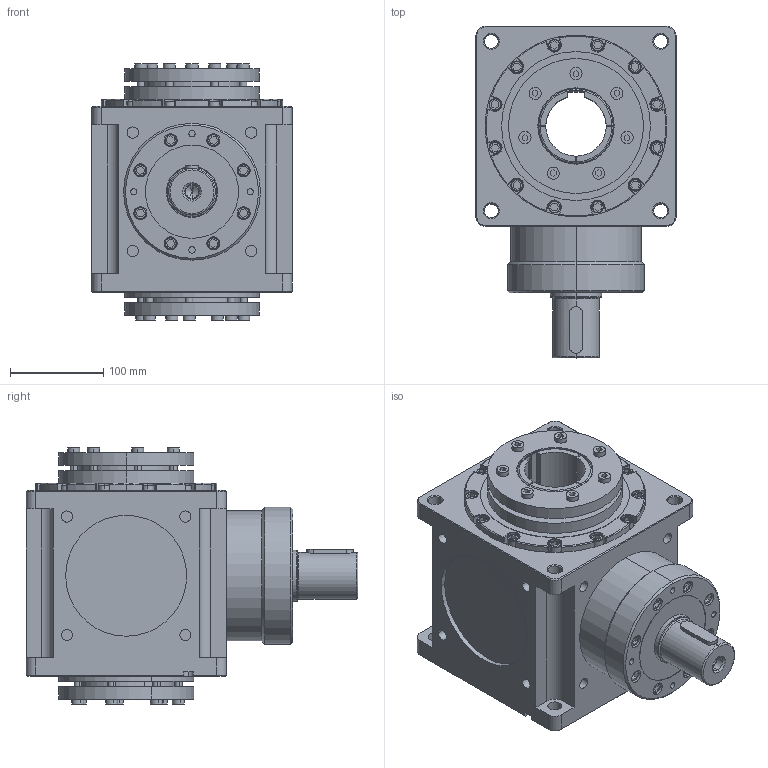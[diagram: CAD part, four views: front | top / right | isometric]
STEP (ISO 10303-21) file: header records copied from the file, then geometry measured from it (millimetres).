
FILE_DESCRIPTION (( 'STEP AP214' ), '1' );
FILE_NAME ('CCT215A-002-2HP-K.STEP', '2025-05-28T05:28:29', ( '微软用户' ), ( '微软中国' ), 'SwSTEP 2.0', 'SolidWorks 2024', '' );
FILE_SCHEMA (( 'AUTOMOTIVE_DESIGN' ));
Length unit declared in the file: millimetre
Products named in the file (4): CCT215A-002-2HP-K; CCW215A-002-2HP-K箱体; CCT215A输入组件; 外紧固型胀紧套[80-145]_EDO-80-145
Assembly tree (4 placements, depth 2):
  CCT215A-002-2HP-K
    CCW215A-002-2HP-K箱体
    CCT215A输入组件
    外紧固型胀紧套[80-145]_EDO-80-145  x2
Bounding box: 215 x 356.5 x 275.1 mm (x, y, z)
Volume: 9694400.4 mm3; surface area: 595147.8 mm2
Topology: 4 solids, 4 shells, 976 faces, 2341 edges, 1503 vertices
Faces by surface type: plane 447, cylinder 376, torus 97, cone 32, bspline 24
Entity records: 26253 total; most frequent: CARTESIAN_POINT 5668, DIRECTION 4480, ORIENTED_EDGE 4102, EDGE_CURVE 2051, AXIS2_PLACEMENT_3D 1677, VERTEX_POINT 1311, VECTOR 1126, LINE 1126
